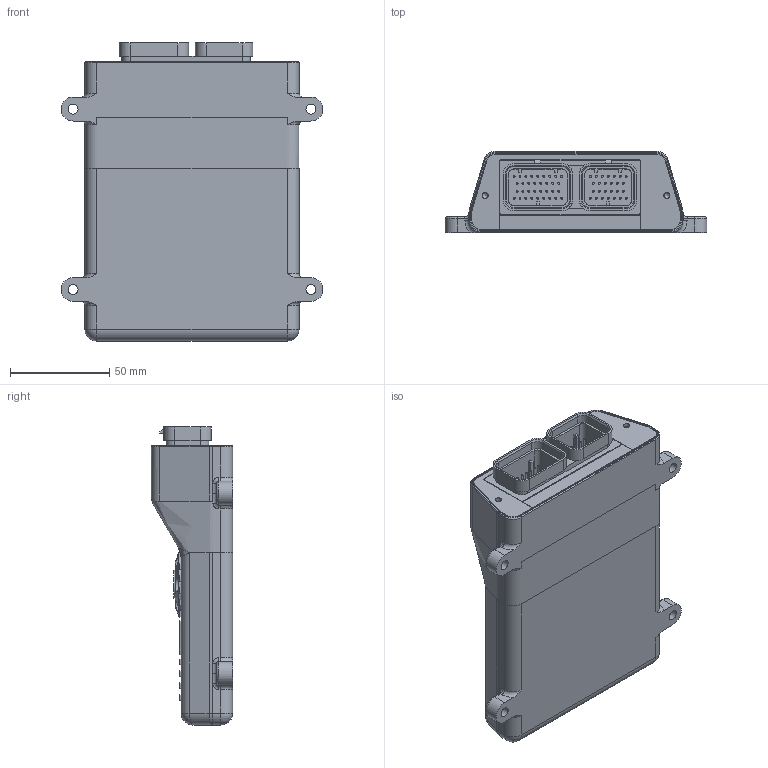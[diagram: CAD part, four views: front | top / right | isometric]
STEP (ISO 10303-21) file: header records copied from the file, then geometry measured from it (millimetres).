
FILE_DESCRIPTION(/* description */ (''),/* implementation_level */ '2;1');
FILE_NAME(/* name */ 'C:/Users/behr0/Desktop/MaxxECU PDM Export v1.step',/* time_stamp */ '2019-02-26T22:04:50+01:00',/* author */ ('behr00@gmail.com'),/* organization */ (''),/* preprocessor_version */ 'ST-DEVELOPER v17.2',/* originating_system */ 'Autodesk Translation Framework v7.6.0.251',/* authorisation */ '');
FILE_SCHEMA (('AUTOMOTIVE_DESIGN { 1 0 10303 214 3 1 1 }'));
Length unit declared in the file: millimetre
Products named in the file (12): MaxxECU PDM Export; PCB; Heatspreader; Heatspreader_1; Silpad 1; c-6437288-3-d-3d; MaxxECU S6 box rev0 v5; Insulator; Front1; Front2; Spring seat; Conductor bushing
Assembly tree (11 placements, depth 3):
  MaxxECU PDM Export
    PCB
    Heatspreader
      Heatspreader_1
      Silpad 1
    c-6437288-3-d-3d
    MaxxECU S6 box rev0 v5
    Insulator
    Front1
    Front2
    Spring seat
    Conductor bushing
Bounding box: 132 x 41 x 150.4 mm (x, y, z)
Volume: 212390.6 mm3; surface area: 171879.7 mm2
Topology: 10 solids, 10 shells, 1484 faces, 3932 edges, 2605 vertices
Faces by surface type: cylinder 689, plane 605, torus 104, bspline 44, cone 26, sphere 16
Full cylindrical faces by diameter (mm): 1 x243, 1.5 x2, 2 x10, 2.2 x1, 2.4 x10, 2.6 x2, 3 x18, 3.2 x5, 3.3 x3, 4 x2, 5 x4, 5.035 x1, 6 x10, 6.3 x10, 7 x1, 8 x4, 12 x1, 12.8 x1, 13 x2, 14 x2, 18 x1, 19 x1, 21 x1, 21.1 x1, 32 x1
Entity records: 51030 total; most frequent: CARTESIAN_POINT 11820, DIRECTION 8580, ORIENTED_EDGE 7820, EDGE_CURVE 3910, AXIS2_PLACEMENT_3D 3321, VERTEX_POINT 2605, LINE 1938, VECTOR 1938
